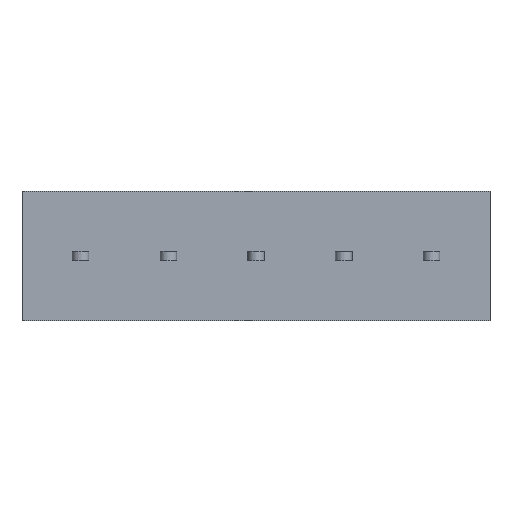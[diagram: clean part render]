
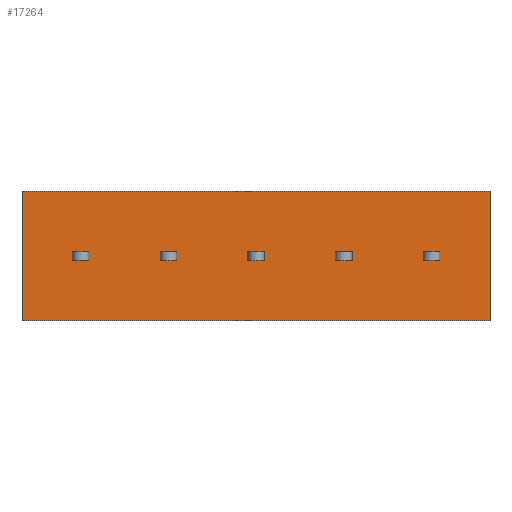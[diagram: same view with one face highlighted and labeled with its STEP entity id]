
A CAD part, front view. The second image highlights one B-rep face of the part: STEP entity #17264.
In plain terms, the highlighted planar face has unit normal (0, -1, 0).
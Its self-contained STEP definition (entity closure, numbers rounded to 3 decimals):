
#1247=VERTEX_POINT('',#23739);
#1248=VERTEX_POINT('',#23740);
#1251=VERTEX_POINT('',#23748);
#1281=VERTEX_POINT('',#23818);
#1461=VERTEX_POINT('',#24392);
#1462=VERTEX_POINT('',#24393);
#1463=VERTEX_POINT('',#24395);
#1464=VERTEX_POINT('',#24397);
#1465=VERTEX_POINT('',#24400);
#1466=VERTEX_POINT('',#24401);
#1467=VERTEX_POINT('',#24403);
#1468=VERTEX_POINT('',#24405);
#1469=VERTEX_POINT('',#24408);
#1470=VERTEX_POINT('',#24409);
#1471=VERTEX_POINT('',#24411);
#1472=VERTEX_POINT('',#24413);
#1473=VERTEX_POINT('',#24416);
#1474=VERTEX_POINT('',#24417);
#1475=VERTEX_POINT('',#24419);
#1476=VERTEX_POINT('',#24421);
#1477=VERTEX_POINT('',#24424);
#1478=VERTEX_POINT('',#24425);
#1479=VERTEX_POINT('',#24427);
#1480=VERTEX_POINT('',#24429);
#3041=VECTOR('',#19789,1.);
#3044=VECTOR('',#19795,1.);
#3074=VECTOR('',#19841,1.);
#3077=VECTOR('',#19849,1.);
#3266=VECTOR('',#20285,1.);
#3267=VECTOR('',#20286,1.);
#3268=VECTOR('',#20287,1.);
#3269=VECTOR('',#20288,1.);
#3270=VECTOR('',#20289,1.);
#3271=VECTOR('',#20290,1.);
#3272=VECTOR('',#20291,1.);
#3273=VECTOR('',#20292,1.);
#3274=VECTOR('',#20293,1.);
#3275=VECTOR('',#20294,1.);
#3276=VECTOR('',#20295,1.);
#3277=VECTOR('',#20296,1.);
#3278=VECTOR('',#20297,1.);
#3279=VECTOR('',#20298,1.);
#3280=VECTOR('',#20299,1.);
#3281=VECTOR('',#20300,1.);
#3282=VECTOR('',#20301,1.);
#3283=VECTOR('',#20302,1.);
#3284=VECTOR('',#20303,1.);
#3285=VECTOR('',#20304,1.);
#5034=LINE('',#23738,#3041);
#5037=LINE('',#23747,#3044);
#5067=LINE('',#23817,#3074);
#5070=LINE('',#23825,#3077);
#5259=LINE('',#24391,#3266);
#5260=LINE('',#24394,#3267);
#5261=LINE('',#24396,#3268);
#5262=LINE('',#24398,#3269);
#5263=LINE('',#24399,#3270);
#5264=LINE('',#24402,#3271);
#5265=LINE('',#24404,#3272);
#5266=LINE('',#24406,#3273);
#5267=LINE('',#24407,#3274);
#5268=LINE('',#24410,#3275);
#5269=LINE('',#24412,#3276);
#5270=LINE('',#24414,#3277);
#5271=LINE('',#24415,#3278);
#5272=LINE('',#24418,#3279);
#5273=LINE('',#24420,#3280);
#5274=LINE('',#24422,#3281);
#5275=LINE('',#24423,#3282);
#5276=LINE('',#24426,#3283);
#5277=LINE('',#24428,#3284);
#5278=LINE('',#24430,#3285);
#7122=EDGE_CURVE('',#1247,#1248,#5034,.T.);
#7126=EDGE_CURVE('',#1248,#1251,#5037,.T.);
#7164=EDGE_CURVE('',#1251,#1281,#5067,.T.);
#7168=EDGE_CURVE('',#1281,#1247,#5070,.T.);
#7440=EDGE_CURVE('',#1461,#1462,#5259,.T.);
#7441=EDGE_CURVE('',#1462,#1463,#5260,.T.);
#7442=EDGE_CURVE('',#1463,#1464,#5261,.T.);
#7443=EDGE_CURVE('',#1464,#1461,#5262,.T.);
#7444=EDGE_CURVE('',#1465,#1466,#5263,.T.);
#7445=EDGE_CURVE('',#1466,#1467,#5264,.T.);
#7446=EDGE_CURVE('',#1467,#1468,#5265,.T.);
#7447=EDGE_CURVE('',#1468,#1465,#5266,.T.);
#7448=EDGE_CURVE('',#1469,#1470,#5267,.T.);
#7449=EDGE_CURVE('',#1471,#1469,#5268,.T.);
#7450=EDGE_CURVE('',#1472,#1471,#5269,.T.);
#7451=EDGE_CURVE('',#1470,#1472,#5270,.T.);
#7452=EDGE_CURVE('',#1473,#1474,#5271,.T.);
#7453=EDGE_CURVE('',#1475,#1473,#5272,.T.);
#7454=EDGE_CURVE('',#1476,#1475,#5273,.T.);
#7455=EDGE_CURVE('',#1474,#1476,#5274,.T.);
#7456=EDGE_CURVE('',#1477,#1478,#5275,.T.);
#7457=EDGE_CURVE('',#1478,#1479,#5276,.T.);
#7458=EDGE_CURVE('',#1480,#1479,#5277,.T.);
#7459=EDGE_CURVE('',#1480,#1477,#5278,.T.);
#10656=ORIENTED_EDGE('',*,*,#7440,.T.);
#10657=ORIENTED_EDGE('',*,*,#7441,.T.);
#10658=ORIENTED_EDGE('',*,*,#7442,.T.);
#10659=ORIENTED_EDGE('',*,*,#7443,.T.);
#10660=ORIENTED_EDGE('',*,*,#7444,.T.);
#10661=ORIENTED_EDGE('',*,*,#7445,.T.);
#10662=ORIENTED_EDGE('',*,*,#7446,.T.);
#10663=ORIENTED_EDGE('',*,*,#7447,.T.);
#10664=ORIENTED_EDGE('',*,*,#7164,.F.);
#10665=ORIENTED_EDGE('',*,*,#7126,.F.);
#10666=ORIENTED_EDGE('',*,*,#7122,.F.);
#10667=ORIENTED_EDGE('',*,*,#7168,.F.);
#10668=ORIENTED_EDGE('',*,*,#7448,.F.);
#10669=ORIENTED_EDGE('',*,*,#7449,.F.);
#10670=ORIENTED_EDGE('',*,*,#7450,.F.);
#10671=ORIENTED_EDGE('',*,*,#7451,.F.);
#10672=ORIENTED_EDGE('',*,*,#7452,.F.);
#10673=ORIENTED_EDGE('',*,*,#7453,.F.);
#10674=ORIENTED_EDGE('',*,*,#7454,.F.);
#10675=ORIENTED_EDGE('',*,*,#7455,.F.);
#10676=ORIENTED_EDGE('',*,*,#7456,.T.);
#10677=ORIENTED_EDGE('',*,*,#7457,.T.);
#10678=ORIENTED_EDGE('',*,*,#7458,.F.);
#10679=ORIENTED_EDGE('',*,*,#7459,.T.);
#15124=EDGE_LOOP('',(#10656,#10657,#10658,#10659));
#15125=EDGE_LOOP('',(#10660,#10661,#10662,#10663));
#15126=EDGE_LOOP('',(#10664,#10665,#10666,#10667));
#15127=EDGE_LOOP('',(#10668,#10669,#10670,#10671));
#15128=EDGE_LOOP('',(#10672,#10673,#10674,#10675));
#15129=EDGE_LOOP('',(#10676,#10677,#10678,#10679));
#16202=FACE_BOUND('',#15124,.T.);
#16203=FACE_BOUND('',#15125,.T.);
#16204=FACE_BOUND('',#15126,.T.);
#16205=FACE_BOUND('',#15127,.T.);
#16206=FACE_BOUND('',#15128,.T.);
#16207=FACE_BOUND('',#15129,.T.);
#17264=ADVANCED_FACE('',(#16202,#16203,#16204,#16205,#16206,#16207),#29684,
 .T.);
#18393=AXIS2_PLACEMENT_3D('',#24390,#20284,$);
#19789=DIRECTION('',(1.,0.,0.));
#19795=DIRECTION('',(0.,0.,1.));
#19841=DIRECTION('',(-1.,0.,0.));
#19849=DIRECTION('',(0.,0.,-1.));
#20284=DIRECTION('',(0.,-1.,0.));
#20285=DIRECTION('',(1.,0.,0.));
#20286=DIRECTION('',(0.,0.,-1.));
#20287=DIRECTION('',(-1.,0.,0.));
#20288=DIRECTION('',(0.,0.,1.));
#20289=DIRECTION('',(1.,0.,0.));
#20290=DIRECTION('',(0.,0.,-1.));
#20291=DIRECTION('',(-1.,0.,0.));
#20292=DIRECTION('',(0.,0.,1.));
#20293=DIRECTION('',(-1.,0.,0.));
#20294=DIRECTION('',(0.,0.,1.));
#20295=DIRECTION('',(1.,0.,0.));
#20296=DIRECTION('',(0.,0.,-1.));
#20297=DIRECTION('',(-1.,0.,0.));
#20298=DIRECTION('',(0.,0.,1.));
#20299=DIRECTION('',(1.,0.,0.));
#20300=DIRECTION('',(0.,0.,-1.));
#20301=DIRECTION('',(1.,0.,0.));
#20302=DIRECTION('',(0.,0.,1.));
#20303=DIRECTION('',(1.,0.,0.));
#20304=DIRECTION('',(0.,0.,-1.));
#23738=CARTESIAN_POINT('',(42.325,0.,-0.5));
#23739=CARTESIAN_POINT('',(43.45,0.,-0.5));
#23740=CARTESIAN_POINT('',(45.25,0.,-0.5));
#23747=CARTESIAN_POINT('',(45.25,0.,1.75));
#23748=CARTESIAN_POINT('',(45.25,0.,0.5));
#23817=CARTESIAN_POINT('',(42.325,0.,0.5));
#23818=CARTESIAN_POINT('',(43.45,0.,0.5));
#23825=CARTESIAN_POINT('',(43.45,0.,1.75));
#24390=CARTESIAN_POINT('',(19.9,0.,0.));
#24391=CARTESIAN_POINT('',(13.125,0.,0.5));
#24392=CARTESIAN_POINT('',(5.45,0.,0.5));
#24393=CARTESIAN_POINT('',(7.25,0.,0.5));
#24394=CARTESIAN_POINT('',(7.25,0.,1.75));
#24395=CARTESIAN_POINT('',(7.25,0.,-0.5));
#24396=CARTESIAN_POINT('',(13.125,0.,-0.5));
#24397=CARTESIAN_POINT('',(5.45,0.,-0.5));
#24398=CARTESIAN_POINT('',(5.45,0.,1.75));
#24399=CARTESIAN_POINT('',(17.875,0.,0.5));
#24400=CARTESIAN_POINT('',(14.95,0.,0.5));
#24401=CARTESIAN_POINT('',(16.75,0.,0.5));
#24402=CARTESIAN_POINT('',(16.75,0.,1.75));
#24403=CARTESIAN_POINT('',(16.75,0.,-0.5));
#24404=CARTESIAN_POINT('',(17.875,0.,-0.5));
#24405=CARTESIAN_POINT('',(14.95,0.,-0.5));
#24406=CARTESIAN_POINT('',(14.95,0.,1.75));
#24407=CARTESIAN_POINT('',(32.825,0.,0.5));
#24408=CARTESIAN_POINT('',(35.75,0.,0.5));
#24409=CARTESIAN_POINT('',(33.95,0.,0.5));
#24410=CARTESIAN_POINT('',(35.75,0.,1.75));
#24411=CARTESIAN_POINT('',(35.75,0.,-0.5));
#24412=CARTESIAN_POINT('',(32.825,0.,-0.5));
#24413=CARTESIAN_POINT('',(33.95,0.,-0.5));
#24414=CARTESIAN_POINT('',(33.95,0.,1.75));
#24415=CARTESIAN_POINT('',(23.325,0.,0.5));
#24416=CARTESIAN_POINT('',(26.25,0.,0.5));
#24417=CARTESIAN_POINT('',(24.45,0.,0.5));
#24418=CARTESIAN_POINT('',(26.25,0.,1.75));
#24419=CARTESIAN_POINT('',(26.25,0.,-0.5));
#24420=CARTESIAN_POINT('',(23.325,0.,-0.5));
#24421=CARTESIAN_POINT('',(24.45,0.,-0.5));
#24422=CARTESIAN_POINT('',(24.45,0.,1.75));
#24423=CARTESIAN_POINT('',(19.9,0.,-7.));
#24424=CARTESIAN_POINT('',(0.,0.,-7.));
#24425=CARTESIAN_POINT('',(50.7,0.,-7.));
#24426=CARTESIAN_POINT('',(50.7,0.,7.));
#24427=CARTESIAN_POINT('',(50.7,0.,7.));
#24428=CARTESIAN_POINT('',(0.,0.,7.));
#24429=CARTESIAN_POINT('',(0.,0.,7.));
#24430=CARTESIAN_POINT('',(0.,0.,7.));
#29684=PLANE('',#18393);
